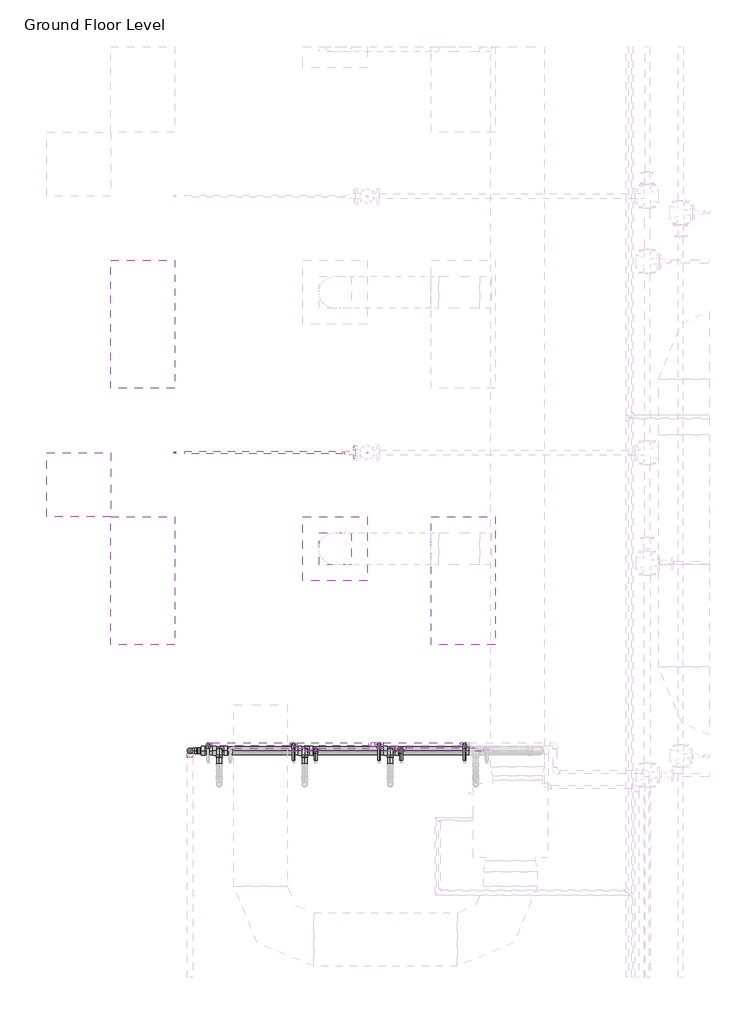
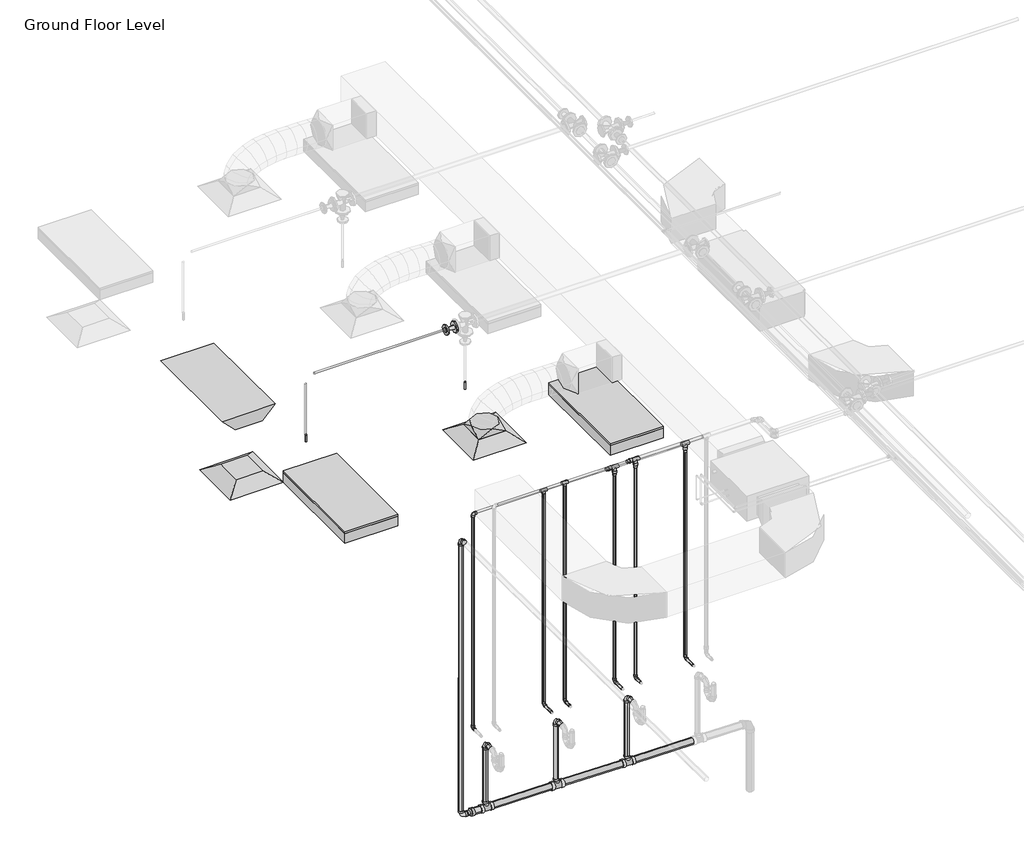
# One storey, part 23 of 66: 31 pipe segments, 27 pipe fittings, 3 light fixtures, 2 air terminals, 2 fire suppression terminals, 1 duct fitting.
"""IFC4 building model written with IfcOpenShell, lengths in millimetres."""

from ifc_helpers import new_model, si_unit, point, frame, frame_2d, origin, place, context, project, spatial, circle_curve, trimmed, segment, composite_curve, outline, extrude, transform, mapped, element, save
from components import m_return_diffuser_600_x_600_face_300_x_300_connection_ff221211, m_rectangular_to_round_transition_angle_45_degree_641efff0, m_sprinkler_dry_pendent_hosted_15_mm_dry_pendent_9bda8e11, m_emergency_recessed_lighting_fixture_600x1200_277_5b10b25d, m_troffer_light_parabolic_rectangular1_0600x1200mm_4_lamp_86473d4a, m_bend_pvc_sch_40_dwv_standard_1e7bdcc1, m_bend_pvc_sch_40_dwv_standard_b3f66ba9, m_bend_pvc_sch_40_dwv_standard_8255d195, m_reducer_flanged_cs_class_150_standard_dc68ad9d, m_reducer_pvc_sch_40_dwv_standard_391ccf0e, m_tee_reducing_sanitary_pvc_sch_40_dwv_standard_21d2848c, standard_b266ab3f, standard_72b35c3b, standard_e954f56a, standard_636910a4, standard_e5aa6446

model = new_model("IFC4")

# Units and contexts
model_context = context("Model", 3, world=origin())
ifc_project = project(units=[si_unit("LENGTHUNIT", "METRE", prefix="MILLI")], contexts=[model_context])

# Site, building, storey
site = spatial("IfcSite", under=ifc_project)
building = spatial("IfcBuilding", under=site)
storey = spatial("IfcBuildingStorey", under=building, Name="Ground Floor Level", Elevation=900.0)

# Air terminals
placement = place(None, origin())
m_return_diffuser_600_x_600_face_300_x_300_connection_shape = m_return_diffuser_600_x_600_face_300_x_300_connection_ff221211(model_context)
element("IfcAirTerminal", 1, ObjectType="M_Return Diffuser : 600 x 600 Face 300 x 300 Connection", at=placement, inside=storey, context=model_context, shape_type="MappedRepresentation", body=[
    mapped(m_return_diffuser_600_x_600_face_300_x_300_connection_shape, transform((362.7672395, -21364.7846466, 3650.0), x_axis=(1.0, 0.0, 0.0), y_axis=(0.0, 1.0, 0.0), z_axis=(0.0, 0.0, 1.0))),
])
element("IfcAirTerminal", 2, ObjectType="M_Supply Diffuser : 600 x 600 Face 300 x 300 Connection", at=placement, inside=storey, context=model_context, shape_type="MappedRepresentation", body=[
    mapped(m_return_diffuser_600_x_600_face_300_x_300_connection_shape, transform((2762.7672395, -21964.7846466, 3650.0), x_axis=(1.0, 0.0, 0.0), y_axis=(0.0, 1.0, 0.0), z_axis=(0.0, 0.0, 1.0))),
])

# Duct fitting
m_rectangular_to_round_transition_angle_45_degree_shape = m_rectangular_to_round_transition_angle_45_degree_641efff0(model_context)
element("IfcDuctFitting", 3, ObjectType="M_Rectangular to Round Transition - Angle : 45 Degree", at=placement, inside=storey, context=model_context, shape_type="MappedRepresentation", body=[
    mapped(m_rectangular_to_round_transition_angle_45_degree_shape, transform((2762.7672395, -21964.7846466, 3751.6), x_axis=(0.0, 0.0, 1.0), y_axis=(-1.0, 0.0, 0.0), z_axis=(0.0, -1.0, 0.0))),
])

# Fire suppression terminals
m_sprinkler_dry_pendent_hosted_15_mm_dry_pendent_shape = m_sprinkler_dry_pendent_hosted_15_mm_dry_pendent_9bda8e11(model_context)
element("IfcFireSuppressionTerminal", 4, ObjectType="M_Sprinkler - Dry - Pendent - Hosted : 15 mm Dry Pendent", at=placement, inside=storey, context=model_context, shape_type="MappedRepresentation", body=[
    mapped(m_sprinkler_dry_pendent_hosted_15_mm_dry_pendent_shape, transform((1262.7672395, -21064.7846466, 3650.0), x_axis=(1.0, 0.0, 0.0), y_axis=(0.0, -1.0, 0.0), z_axis=(0.0, 0.0, -1.0))),
])
element("IfcFireSuppressionTerminal", 5, ObjectType="M_Sprinkler - Dry - Pendent - Hosted : 15 mm Dry Pendent", at=placement, inside=storey, context=model_context, shape_type="MappedRepresentation", body=[
    mapped(m_sprinkler_dry_pendent_hosted_15_mm_dry_pendent_shape, transform((3062.7672395, -21064.7846466, 3650.0), x_axis=(1.0, 0.0, 0.0), y_axis=(0.0, -1.0, 0.0), z_axis=(0.0, 0.0, -1.0))),
])

# Light fixtures
m_emergency_recessed_lighting_fixture_600x1200_277_shape = m_emergency_recessed_lighting_fixture_600x1200_277_5b10b25d(model_context)
element("IfcLightFixture", 6, ObjectType="M_Emergency Recessed Lighting Fixture : 600x1200 - 277", at=placement, inside=storey, context=model_context, shape_type="MappedRepresentation", body=[
    mapped(m_emergency_recessed_lighting_fixture_600x1200_277_shape, transform((662.7672395, -20464.7846466, 3650.0), x_axis=(0.0, 1.0, 0.0), y_axis=(-1.0, 0.0, 0.0), z_axis=(0.0, 0.0, 1.0))),
])
m_troffer_light_parabolic_rectangular1_0600x1200mm_4_lamp_shape = m_troffer_light_parabolic_rectangular1_0600x1200mm_4_lamp_86473d4a(model_context)
element("IfcLightFixture", 7, ObjectType="M_Troffer Light - Parabolic Rectangular1 : 0600x1200mm(4 Lamp) - 277V 2", at=placement, inside=storey, context=model_context, shape_type="MappedRepresentation", body=[
    mapped(m_troffer_light_parabolic_rectangular1_0600x1200mm_4_lamp_shape, transform((903.3013074, -22246.081145, 3650.0), x_axis=(0.0, 1.0, 0.0), y_axis=(-1.0, 0.0, 0.0), z_axis=(0.0, 0.0, 1.0))),
])
element("IfcLightFixture", 8, ObjectType="M_Troffer Light - Parabolic Rectangular1 : 0600x1200mm(4 Lamp) - 277V 2", at=placement, inside=storey, context=model_context, shape_type="MappedRepresentation", body=[
    mapped(m_troffer_light_parabolic_rectangular1_0600x1200mm_4_lamp_shape, transform((3903.3013074, -22246.081145, 3650.0), x_axis=(0.0, 1.0, 0.0), y_axis=(-1.0, 0.0, 0.0), z_axis=(0.0, 0.0, 1.0))),
])

# Pipe fittings
m_bend_pvc_sch_40_dwv_standard_shape = m_bend_pvc_sch_40_dwv_standard_1e7bdcc1(model_context)
element("IfcPipeFitting", 9, ObjectType="M_Bend - PVC - Sch 40 - DWV : Standard", at=placement, inside=storey, context=model_context, shape_type="MappedRepresentation", body=[
    mapped(m_bend_pvc_sch_40_dwv_standard_shape, transform((2478.7498, -23854.2948449, 1508.2594199), x_axis=(0.0, 0.9999500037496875, -0.00999950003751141), y_axis=(0.0, -0.00999950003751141, -0.9999500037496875), z_axis=(-1.0, 0.0, 0.0))),
])
element("IfcPipeFitting", 10, ObjectType="M_Bend - PVC - Sch 40 - DWV : Standard", at=placement, inside=storey, context=model_context, shape_type="MappedRepresentation", body=[
    mapped(m_bend_pvc_sch_40_dwv_standard_shape, transform((1404.8669708, -23854.2948449, 739.8083289), x_axis=(-0.9999500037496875, 0.0, 0.009999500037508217), y_axis=(0.009999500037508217, 0.0, 0.9999500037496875), z_axis=(0.0, 1.0, 0.0))),
])
m_bend_pvc_sch_40_dwv_standard_2_shape = m_bend_pvc_sch_40_dwv_standard_b3f66ba9(model_context)
element("IfcPipeFitting", 11, ObjectType="M_Bend - PVC - Sch 40 - DWV : Standard", at=placement, inside=storey, context=model_context, shape_type="MappedRepresentation", body=[
    mapped(m_bend_pvc_sch_40_dwv_standard_2_shape, transform((1678.7498, -23854.294392, 1508.3087469), x_axis=(0.0, 0.9999578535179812, -0.009181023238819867), y_axis=(0.0, -0.009181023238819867, -0.9999578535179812), z_axis=(-1.0, 0.0, 0.0))),
])
element("IfcPipeFitting", 12, ObjectType="M_Bend - PVC - Sch 40 - DWV : Standard", at=placement, inside=storey, context=model_context, shape_type="MappedRepresentation", body=[
    mapped(m_bend_pvc_sch_40_dwv_standard_2_shape, transform((3278.7498, -23854.294392, 1508.3087469), x_axis=(0.0, 0.9999578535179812, -0.009181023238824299), y_axis=(0.0, -0.009181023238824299, -0.9999578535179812), z_axis=(-1.0, 0.0, 0.0))),
])
m_bend_pvc_sch_40_dwv_standard_3_shape = m_bend_pvc_sch_40_dwv_standard_8255d195(model_context)
element("IfcPipeFitting", 13, ObjectType="M_Bend - PVC - Sch 40 - DWV : Standard", at=placement, inside=storey, context=model_context, shape_type="MappedRepresentation", body=[
    mapped(m_bend_pvc_sch_40_dwv_standard_3_shape, transform((1404.8829692, -23854.3136394, 4037.9287036), x_axis=(0.0, 0.0, 1.0), y_axis=(0.0, -1.0, 0.0), z_axis=(1.0, 0.0, 0.0))),
])
m_reducer_flanged_cs_class_150_standard_shape = m_reducer_flanged_cs_class_150_standard_dc68ad9d(model_context)
element("IfcPipeFitting", 14, ObjectType="M_Reducer - Flanged - CS - Class 150 : Standard", at=placement, inside=storey, context=model_context, shape_type="MappedRepresentation", body=[
    mapped(m_reducer_flanged_cs_class_150_standard_shape, transform((2950.5086457, -21064.7846466, 4347.5), x_axis=(-1.0, 0.0, 0.0), y_axis=(0.0, 0.0, 1.0), z_axis=(0.0, 1.0, 0.0))),
])
m_reducer_pvc_sch_40_dwv_standard_shape = m_reducer_pvc_sch_40_dwv_standard_391ccf0e(model_context)
element("IfcPipeFitting", 15, ObjectType="M_Reducer - PVC - Sch 40 - DWV : Standard", at=placement, inside=storey, context=model_context, shape_type="MappedRepresentation", body=[
    mapped(m_reducer_pvc_sch_40_dwv_standard_shape, transform((1477.4242491, -23854.2948449, 739.0827561), x_axis=(0.9999500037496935, 0.0, -0.00999950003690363), y_axis=(0.0, 1.0, 0.0), z_axis=(0.00999950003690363, 0.0, 0.9999500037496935))),
])
m_tee_reducing_sanitary_pvc_sch_40_dwv_standard_shape = m_tee_reducing_sanitary_pvc_sch_40_dwv_standard_21d2848c(model_context)
element("IfcPipeFitting", 16, ObjectType="M_Tee Reducing Sanitary - PVC - Sch 40 - DWV : Standard", at=placement, inside=storey, context=model_context, shape_type="MappedRepresentation", body=[
    mapped(m_tee_reducing_sanitary_pvc_sch_40_dwv_standard_shape, transform((1678.7498, -23854.294392, 737.0632162), x_axis=(-0.9999500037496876, 0.0, 0.009999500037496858), y_axis=(-0.009999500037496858, 0.0, -0.9999500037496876), z_axis=(0.0, -1.0, 0.0))),
])
element("IfcPipeFitting", 17, ObjectType="M_Tee Reducing Sanitary - PVC - Sch 40 - DWV : Standard", at=placement, inside=storey, context=model_context, shape_type="MappedRepresentation", body=[
    mapped(m_tee_reducing_sanitary_pvc_sch_40_dwv_standard_shape, transform((2478.7498, -23854.2948449, 729.0632162), x_axis=(-0.9999500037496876, 0.0, 0.009999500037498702), y_axis=(-0.009999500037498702, 0.0, -0.9999500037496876), z_axis=(0.0, -1.0, 0.0))),
])
element("IfcPipeFitting", 18, ObjectType="M_Tee Reducing Sanitary - PVC - Sch 40 - DWV : Standard", at=placement, inside=storey, context=model_context, shape_type="MappedRepresentation", body=[
    mapped(m_tee_reducing_sanitary_pvc_sch_40_dwv_standard_shape, transform((3278.7498, -23854.294392, 721.0632162), x_axis=(-0.9999500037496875, 0.0, 0.009999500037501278), y_axis=(-0.009999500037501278, 0.0, -0.9999500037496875), z_axis=(0.0, -1.0, 0.0))),
])
standard_shape = standard_b266ab3f(model_context)
element("IfcPipeFitting", 19, ObjectType="M_Elbow - CPVC - Sch 40 : Standard", at=placement, inside=storey, context=model_context, shape_type="MappedRepresentation", body=[
    mapped(standard_shape, transform((2583.0647206, -23844.7846466, 1690.0), x_axis=(0.0, 0.0, -1.0), y_axis=(0.0, -1.0, 0.0), z_axis=(-1.0, 0.0, 0.0))),
])
element("IfcPipeFitting", 20, ObjectType="M_Elbow - CPVC - Sch 40 : Standard", at=placement, inside=storey, context=model_context, shape_type="MappedRepresentation", body=[
    mapped(standard_shape, transform((3383.0647206, -23844.7846466, 1690.0), x_axis=(0.0, 0.0, -1.0), y_axis=(0.0, -1.0, 0.0), z_axis=(-1.0, 0.0, 0.0))),
])
element("IfcPipeFitting", 21, ObjectType="M_Elbow - CPVC - Sch 40 : Standard", at=placement, inside=storey, context=model_context, shape_type="MappedRepresentation", body=[
    mapped(standard_shape, transform((1574.4348794, -23794.921633, 1690.0), x_axis=(0.0, 1.0, 0.0), y_axis=(0.0, 0.0, 1.0), z_axis=(1.0, 0.0, 0.0))),
])
element("IfcPipeFitting", 22, ObjectType="M_Elbow - CPVC - Sch 40 : Standard", at=placement, inside=storey, context=model_context, shape_type="MappedRepresentation", body=[
    mapped(standard_shape, transform((1574.4348794, -23794.921633, 4250.0), x_axis=(0.0, 0.0, 1.0), y_axis=(1.0, 0.0, 0.0), z_axis=(0.0, 1.0, 0.0))),
])
element("IfcPipeFitting", 23, ObjectType="M_Elbow - CPVC - Sch 40 : Standard", at=placement, inside=storey, context=model_context, shape_type="MappedRepresentation", body=[
    mapped(standard_shape, transform((2374.4348794, -23794.921633, 1690.0), x_axis=(0.0, 1.0, 0.0), y_axis=(0.0, 0.0, 1.0), z_axis=(1.0, 0.0, 0.0))),
])
element("IfcPipeFitting", 24, ObjectType="M_Elbow - CPVC - Sch 40 : Standard", at=placement, inside=storey, context=model_context, shape_type="MappedRepresentation", body=[
    mapped(standard_shape, transform((3174.4348794, -23794.921633, 1690.0), x_axis=(0.0, 1.0, 0.0), y_axis=(0.0, 0.0, 1.0), z_axis=(1.0, 0.0, 0.0))),
])
element("IfcPipeFitting", 25, ObjectType="M_Elbow - CPVC - Sch 40 : Standard", at=placement, inside=storey, context=model_context, shape_type="MappedRepresentation", body=[
    mapped(standard_shape, transform((3974.4348794, -23794.921633, 1690.0), x_axis=(0.0, 1.0, 0.0), y_axis=(0.0, 0.0, 1.0), z_axis=(1.0, 0.0, 0.0))),
])
standard_2_shape = standard_72b35c3b(model_context)
element("IfcPipeFitting", 26, ObjectType="M_Tee - CPVC - Sch 40 : Standard", at=placement, inside=storey, context=model_context, shape_type="MappedRepresentation", body=[
    mapped(standard_2_shape, transform((3383.0647206, -23844.7846466, 4300.0), x_axis=(1.0, 0.0, 0.0), y_axis=(0.0, 0.0, 1.0), z_axis=(0.0, -1.0, 0.0))),
])
element("IfcPipeFitting", 27, ObjectType="M_Tee - CPVC - Sch 40 : Standard", at=placement, inside=storey, context=model_context, shape_type="MappedRepresentation", body=[
    mapped(standard_2_shape, transform((3174.4348794, -23794.921633, 4250.0), x_axis=(-1.0, 0.0, 0.0), y_axis=(0.0, 0.0, 1.0), z_axis=(0.0, 1.0, 0.0))),
])
element("IfcPipeFitting", 28, ObjectType="M_Tee - CPVC - Sch 40 : Standard", at=placement, inside=storey, context=model_context, shape_type="MappedRepresentation", body=[
    mapped(standard_2_shape, transform((3974.4348794, -23794.921633, 4250.0), x_axis=(-1.0, 0.0, 0.0), y_axis=(0.0, 0.0, 1.0), z_axis=(0.0, 1.0, 0.0))),
])
standard_3_shape = standard_e954f56a(model_context)
element("IfcPipeFitting", 29, ObjectType="M_Coupling Reducing - CPVC - Sch 40 : Standard", at=placement, inside=storey, context=model_context, shape_type="MappedRepresentation", body=[
    mapped(standard_3_shape, transform((3343.3645206, -23844.7846466, 4300.0), x_axis=(-1.0, 0.0, 0.0), y_axis=(0.0, -1.0, 0.0), z_axis=(0.0, 0.0, 1.0))),
])
element("IfcPipeFitting", 30, ObjectType="M_Coupling Reducing - CPVC - Sch 40 : Standard", at=placement, inside=storey, context=model_context, shape_type="MappedRepresentation", body=[
    mapped(standard_3_shape, transform((3383.0647206, -23844.7846466, 4260.2998), x_axis=(0.0, 0.0, -1.0), y_axis=(1.0, 0.0, 0.0), z_axis=(0.0, -1.0, 0.0))),
])
element("IfcPipeFitting", 31, ObjectType="M_Coupling Reducing - CPVC - Sch 40 : Standard", at=placement, inside=storey, context=model_context, shape_type="MappedRepresentation", body=[
    mapped(standard_3_shape, transform((3174.4348794, -23794.921633, 4210.2998), x_axis=(0.0, 0.0, -1.0), y_axis=(-1.0, 0.0, 0.0), z_axis=(0.0, 1.0, 0.0))),
])
element("IfcPipeFitting", 32, ObjectType="M_Coupling Reducing - CPVC - Sch 40 : Standard", at=placement, inside=storey, context=model_context, shape_type="MappedRepresentation", body=[
    mapped(standard_3_shape, transform((3974.4348794, -23794.921633, 4210.2998), x_axis=(0.0, 0.0, -1.0), y_axis=(-1.0, 0.0, 0.0), z_axis=(0.0, 1.0, 0.0))),
])
standard_4_shape = standard_636910a4(model_context)
element("IfcPipeFitting", 33, ObjectType="M_Tee - CPVC - Sch 40 : Standard", at=placement, inside=storey, context=model_context, shape_type="MappedRepresentation", body=[
    mapped(standard_4_shape, transform((2583.0647206, -23844.7846466, 4300.0), x_axis=(1.0, 0.0, 0.0), y_axis=(0.0, 0.0, 1.0), z_axis=(0.0, -1.0, 0.0))),
])
element("IfcPipeFitting", 34, ObjectType="M_Tee - CPVC - Sch 40 : Standard", at=placement, inside=storey, context=model_context, shape_type="MappedRepresentation", body=[
    mapped(standard_4_shape, transform((2374.4348794, -23794.921633, 4250.0), x_axis=(-1.0, 0.0, 0.0), y_axis=(0.0, 0.0, 1.0), z_axis=(0.0, 1.0, 0.0))),
])
standard_5_shape = standard_e5aa6446(model_context)
element("IfcPipeFitting", 35, ObjectType="M_Coupling Reducing - CPVC - Sch 40 : Standard", at=placement, inside=storey, context=model_context, shape_type="MappedRepresentation", body=[
    mapped(standard_5_shape, transform((3134.7346794, -23794.921633, 4250.0), x_axis=(-1.0, 0.0, 0.0), y_axis=(0.0, -1.0, 0.0), z_axis=(0.0, 0.0, 1.0))),
])

# Pipe segments
element("IfcPipeSegment", 36, ObjectType="CPVC", at=placement, inside=storey, context=model_context, shape_type="SweptSolid", body=[
    extrude(outline(composite_curve([segment(trimmed(circle_curve(frame_2d((1690.0, 3383.0647206)), 13.335), [point((1690.0, 3396.3997206))], [point((1703.335, 3383.0647206))], False, "CARTESIAN"), True, "CONTINUOUS"), segment(trimmed(circle_curve(frame_2d((1690.0, 3383.0647206)), 13.335), [point((1703.335, 3383.0647206))], [point((1690.0, 3369.7297206))], False, "CARTESIAN"), True, "CONTINUOUS"), segment(trimmed(circle_curve(frame_2d((1690.0, 3383.0647206)), 13.335), [point((1690.0, 3369.7297206))], [point((1676.665, 3383.0647206))], False, "CARTESIAN"), True, "CONTINUOUS"), segment(trimmed(circle_curve(frame_2d((1690.0, 3383.0647206)), 13.335), [point((1676.665, 3383.0647206))], [point((1690.0, 3396.3997206))], False, "CARTESIAN"), True, "CONTINUOUS")], self_intersect=False)), frame((0.0, -23944.7846466, 0.0), z_axis=(0.0, 1.0, 0.0), x_axis=(0.0, 0.0, 1.0)), (0.0, 0.0, 1.0), 64.67495),
])
element("IfcPipeSegment", 37, ObjectType="CPVC", at=placement, inside=storey, context=model_context, shape_type="SweptSolid", body=[
    extrude(outline(composite_curve([segment(trimmed(circle_curve(frame_2d((1690.0, 2583.0647206)), 13.335), [point((1690.0, 2596.3997206))], [point((1703.335, 2583.0647206))], False, "CARTESIAN"), True, "CONTINUOUS"), segment(trimmed(circle_curve(frame_2d((1690.0, 2583.0647206)), 13.335), [point((1703.335, 2583.0647206))], [point((1690.0, 2569.7297206))], False, "CARTESIAN"), True, "CONTINUOUS"), segment(trimmed(circle_curve(frame_2d((1690.0, 2583.0647206)), 13.335), [point((1690.0, 2569.7297206))], [point((1676.665, 2583.0647206))], False, "CARTESIAN"), True, "CONTINUOUS"), segment(trimmed(circle_curve(frame_2d((1690.0, 2583.0647206)), 13.335), [point((1676.665, 2583.0647206))], [point((1690.0, 2596.3997206))], False, "CARTESIAN"), True, "CONTINUOUS")], self_intersect=False)), frame((0.0, -23944.7846466, 0.0), z_axis=(0.0, 1.0, 0.0), x_axis=(0.0, 0.0, 1.0)), (0.0, 0.0, 1.0), 64.67495),
])
element("IfcPipeSegment", 38, ObjectType="CPVC", at=placement, inside=storey, context=model_context, shape_type="SweptSolid", body=[
    extrude(outline(composite_curve([segment(trimmed(circle_curve(frame_2d((-23844.7846466, 4300.0)), 13.335), [point((-23831.4496466, 4300.0))], [point((-23844.7846466, 4286.665))], False, "CARTESIAN"), True, "CONTINUOUS"), segment(trimmed(circle_curve(frame_2d((-23844.7846466, 4300.0)), 13.335), [point((-23844.7846466, 4286.665))], [point((-23858.1196466, 4300.0))], False, "CARTESIAN"), True, "CONTINUOUS"), segment(trimmed(circle_curve(frame_2d((-23844.7846466, 4300.0)), 13.335), [point((-23858.1196466, 4300.0))], [point((-23844.7846466, 4313.335))], False, "CARTESIAN"), True, "CONTINUOUS"), segment(trimmed(circle_curve(frame_2d((-23844.7846466, 4300.0)), 13.335), [point((-23844.7846466, 4313.335))], [point((-23831.4496466, 4300.0))], False, "CARTESIAN"), True, "CONTINUOUS")], self_intersect=False)), frame((1818.3897706, 0.0, 0.0), z_axis=(1.0, 0.0, 0.0), x_axis=(0.0, 1.0, 0.0)), (0.0, 0.0, 1.0), 732.13755),
])
element("IfcPipeSegment", 39, ObjectType="CPVC", at=placement, inside=storey, context=model_context, shape_type="SweptSolid", body=[
    extrude(outline(composite_curve([segment(trimmed(circle_curve(frame_2d((2583.0647206, -23844.7846466)), 13.335), [point((2596.3997206, -23844.7846466))], [point((2583.0647206, -23858.1196466))], False, "CARTESIAN"), True, "CONTINUOUS"), segment(trimmed(circle_curve(frame_2d((2583.0647206, -23844.7846466)), 13.335), [point((2583.0647206, -23858.1196466))], [point((2569.7297206, -23844.7846466))], False, "CARTESIAN"), True, "CONTINUOUS"), segment(trimmed(circle_curve(frame_2d((2583.0647206, -23844.7846466)), 13.335), [point((2569.7297206, -23844.7846466))], [point((2583.0647206, -23831.4496466))], False, "CARTESIAN"), True, "CONTINUOUS"), segment(trimmed(circle_curve(frame_2d((2583.0647206, -23844.7846466)), 13.335), [point((2583.0647206, -23831.4496466))], [point((2596.3997206, -23844.7846466))], False, "CARTESIAN"), True, "CONTINUOUS")], self_intersect=False)), frame((0.0, 0.0, 1725.32505), z_axis=(0.0, 0.0, 1.0), x_axis=(1.0, 0.0, 0.0)), (0.0, 0.0, 1.0), 2542.13755),
])
element("IfcPipeSegment", 40, ObjectType="CPVC", at=placement, inside=storey, context=model_context, shape_type="SweptSolid", body=[
    extrude(outline(composite_curve([segment(trimmed(circle_curve(frame_2d((-23844.7846466, 4300.0)), 13.335), [point((-23831.4496466, 4300.0))], [point((-23844.7846466, 4286.665))], False, "CARTESIAN"), True, "CONTINUOUS"), segment(trimmed(circle_curve(frame_2d((-23844.7846466, 4300.0)), 13.335), [point((-23844.7846466, 4286.665))], [point((-23858.1196466, 4300.0))], False, "CARTESIAN"), True, "CONTINUOUS"), segment(trimmed(circle_curve(frame_2d((-23844.7846466, 4300.0)), 13.335), [point((-23858.1196466, 4300.0))], [point((-23844.7846466, 4313.335))], False, "CARTESIAN"), True, "CONTINUOUS"), segment(trimmed(circle_curve(frame_2d((-23844.7846466, 4300.0)), 13.335), [point((-23844.7846466, 4313.335))], [point((-23831.4496466, 4300.0))], False, "CARTESIAN"), True, "CONTINUOUS")], self_intersect=False)), frame((2615.6021206, 0.0, 0.0), z_axis=(1.0, 0.0, 0.0), x_axis=(0.0, 1.0, 0.0)), (0.0, 0.0, 1.0), 670.6124),
])
element("IfcPipeSegment", 41, ObjectType="CPVC", at=placement, inside=storey, context=model_context, shape_type="SweptSolid", body=[
    extrude(outline(composite_curve([segment(trimmed(circle_curve(frame_2d((3383.0647206, -23844.7846466)), 13.335), [point((3396.3997206, -23844.7846466))], [point((3383.0647206, -23858.1196466))], False, "CARTESIAN"), True, "CONTINUOUS"), segment(trimmed(circle_curve(frame_2d((3383.0647206, -23844.7846466)), 13.335), [point((3383.0647206, -23858.1196466))], [point((3369.7297206, -23844.7846466))], False, "CARTESIAN"), True, "CONTINUOUS"), segment(trimmed(circle_curve(frame_2d((3383.0647206, -23844.7846466)), 13.335), [point((3369.7297206, -23844.7846466))], [point((3383.0647206, -23831.4496466))], False, "CARTESIAN"), True, "CONTINUOUS"), segment(trimmed(circle_curve(frame_2d((3383.0647206, -23844.7846466)), 13.335), [point((3383.0647206, -23831.4496466))], [point((3396.3997206, -23844.7846466))], False, "CARTESIAN"), True, "CONTINUOUS")], self_intersect=False)), frame((0.0, 0.0, 1725.32505), z_axis=(0.0, 0.0, 1.0), x_axis=(1.0, 0.0, 0.0)), (0.0, 0.0, 1.0), 2477.82475),
])
element("IfcPipeSegment", 42, ObjectType="CPVC", at=placement, inside=storey, context=model_context, shape_type="SweptSolid", body=[
    extrude(outline(composite_curve([segment(trimmed(circle_curve(frame_2d((-23844.7846466, 4300.0)), 16.7005), [point((-23828.0841466, 4300.0))], [point((-23844.7846466, 4283.2995))], False, "CARTESIAN"), True, "CONTINUOUS"), segment(trimmed(circle_curve(frame_2d((-23844.7846466, 4300.0)), 16.7005), [point((-23844.7846466, 4283.2995))], [point((-23861.4851466, 4300.0))], False, "CARTESIAN"), True, "CONTINUOUS"), segment(trimmed(circle_curve(frame_2d((-23844.7846466, 4300.0)), 16.7005), [point((-23861.4851466, 4300.0))], [point((-23844.7846466, 4316.7005))], False, "CARTESIAN"), True, "CONTINUOUS"), segment(trimmed(circle_curve(frame_2d((-23844.7846466, 4300.0)), 16.7005), [point((-23844.7846466, 4316.7005))], [point((-23828.0841466, 4300.0))], False, "CARTESIAN"), True, "CONTINUOUS")], self_intersect=False)), frame((3422.7649206, 0.0, 0.0), z_axis=(1.0, 0.0, 0.0), x_axis=(0.0, 1.0, 0.0)), (0.0, 0.0, 1.0), 720.5996),
])
element("IfcPipeSegment", 43, ObjectType="CPVC", at=placement, inside=storey, context=model_context, shape_type="SweptSolid", body=[
    extrude(outline(composite_curve([segment(trimmed(circle_curve(frame_2d((1574.4348794, -23794.921633)), 13.335), [point((1561.0998794, -23794.921633))], [point((1574.4348794, -23781.586633))], False, "CARTESIAN"), True, "CONTINUOUS"), segment(trimmed(circle_curve(frame_2d((1574.4348794, -23794.921633)), 13.335), [point((1574.4348794, -23781.586633))], [point((1587.7698794, -23794.921633))], False, "CARTESIAN"), True, "CONTINUOUS"), segment(trimmed(circle_curve(frame_2d((1574.4348794, -23794.921633)), 13.335), [point((1587.7698794, -23794.921633))], [point((1574.4348794, -23808.256633))], False, "CARTESIAN"), True, "CONTINUOUS"), segment(trimmed(circle_curve(frame_2d((1574.4348794, -23794.921633)), 13.335), [point((1574.4348794, -23808.256633))], [point((1561.0998794, -23794.921633))], False, "CARTESIAN"), True, "CONTINUOUS")], self_intersect=False)), frame((0.0, 0.0, 1725.32505), z_axis=(0.0, 0.0, 1.0), x_axis=(1.0, 0.0, 0.0)), (0.0, 0.0, 1.0), 2489.3499),
])
element("IfcPipeSegment", 44, ObjectType="CPVC", at=placement, inside=storey, context=model_context, shape_type="SweptSolid", body=[
    extrude(outline(composite_curve([segment(trimmed(circle_curve(frame_2d((1690.0, 2374.4348794)), 13.335), [point((1690.0, 2387.7698794))], [point((1703.335, 2374.4348794))], False, "CARTESIAN"), True, "CONTINUOUS"), segment(trimmed(circle_curve(frame_2d((1690.0, 2374.4348794)), 13.335), [point((1703.335, 2374.4348794))], [point((1690.0, 2361.0998794))], False, "CARTESIAN"), True, "CONTINUOUS"), segment(trimmed(circle_curve(frame_2d((1690.0, 2374.4348794)), 13.335), [point((1690.0, 2361.0998794))], [point((1676.665, 2374.4348794))], False, "CARTESIAN"), True, "CONTINUOUS"), segment(trimmed(circle_curve(frame_2d((1690.0, 2374.4348794)), 13.335), [point((1676.665, 2374.4348794))], [point((1690.0, 2387.7698794))], False, "CARTESIAN"), True, "CONTINUOUS")], self_intersect=False)), frame((0.0, -23944.7846466, 0.0), z_axis=(0.0, 1.0, 0.0), x_axis=(0.0, 0.0, 1.0)), (0.0, 0.0, 1.0), 114.5379636),
])
element("IfcPipeSegment", 45, ObjectType="CPVC", at=placement, inside=storey, context=model_context, shape_type="SweptSolid", body=[
    extrude(outline(composite_curve([segment(trimmed(circle_curve(frame_2d((2374.4348794, -23794.921633)), 13.335), [point((2361.0998794, -23794.921633))], [point((2374.4348794, -23781.586633))], False, "CARTESIAN"), True, "CONTINUOUS"), segment(trimmed(circle_curve(frame_2d((2374.4348794, -23794.921633)), 13.335), [point((2374.4348794, -23781.586633))], [point((2387.7698794, -23794.921633))], False, "CARTESIAN"), True, "CONTINUOUS"), segment(trimmed(circle_curve(frame_2d((2374.4348794, -23794.921633)), 13.335), [point((2387.7698794, -23794.921633))], [point((2374.4348794, -23808.256633))], False, "CARTESIAN"), True, "CONTINUOUS"), segment(trimmed(circle_curve(frame_2d((2374.4348794, -23794.921633)), 13.335), [point((2374.4348794, -23808.256633))], [point((2361.0998794, -23794.921633))], False, "CARTESIAN"), True, "CONTINUOUS")], self_intersect=False)), frame((0.0, 0.0, 1725.32505), z_axis=(0.0, 0.0, 1.0), x_axis=(1.0, 0.0, 0.0)), (0.0, 0.0, 1.0), 2492.13755),
])
element("IfcPipeSegment", 46, ObjectType="CPVC", at=placement, inside=storey, context=model_context, shape_type="SweptSolid", body=[
    extrude(outline(composite_curve([segment(trimmed(circle_curve(frame_2d((-23794.921633, 4250.0)), 13.335), [point((-23808.256633, 4250.0))], [point((-23794.921633, 4263.335))], False, "CARTESIAN"), True, "CONTINUOUS"), segment(trimmed(circle_curve(frame_2d((-23794.921633, 4250.0)), 13.335), [point((-23794.921633, 4263.335))], [point((-23781.586633, 4250.0))], False, "CARTESIAN"), True, "CONTINUOUS"), segment(trimmed(circle_curve(frame_2d((-23794.921633, 4250.0)), 13.335), [point((-23781.586633, 4250.0))], [point((-23794.921633, 4236.665))], False, "CARTESIAN"), True, "CONTINUOUS"), segment(trimmed(circle_curve(frame_2d((-23794.921633, 4250.0)), 13.335), [point((-23794.921633, 4236.665))], [point((-23808.256633, 4250.0))], False, "CARTESIAN"), True, "CONTINUOUS")], self_intersect=False)), frame((1609.7599294, 0.0, 0.0), z_axis=(1.0, 0.0, 0.0), x_axis=(0.0, 1.0, 0.0)), (0.0, 0.0, 1.0), 732.13755),
])
element("IfcPipeSegment", 47, ObjectType="CPVC", at=placement, inside=storey, context=model_context, shape_type="SweptSolid", body=[
    extrude(outline(composite_curve([segment(trimmed(circle_curve(frame_2d((1690.0, 3174.4348794)), 13.335), [point((1690.0, 3187.7698794))], [point((1703.335, 3174.4348794))], False, "CARTESIAN"), True, "CONTINUOUS"), segment(trimmed(circle_curve(frame_2d((1690.0, 3174.4348794)), 13.335), [point((1703.335, 3174.4348794))], [point((1690.0, 3161.0998794))], False, "CARTESIAN"), True, "CONTINUOUS"), segment(trimmed(circle_curve(frame_2d((1690.0, 3174.4348794)), 13.335), [point((1690.0, 3161.0998794))], [point((1676.665, 3174.4348794))], False, "CARTESIAN"), True, "CONTINUOUS"), segment(trimmed(circle_curve(frame_2d((1690.0, 3174.4348794)), 13.335), [point((1676.665, 3174.4348794))], [point((1690.0, 3187.7698794))], False, "CARTESIAN"), True, "CONTINUOUS")], self_intersect=False)), frame((0.0, -23944.7846466, 0.0), z_axis=(0.0, 1.0, 0.0), x_axis=(0.0, 0.0, 1.0)), (0.0, 0.0, 1.0), 114.5379636),
])
element("IfcPipeSegment", 48, ObjectType="CPVC", at=placement, inside=storey, context=model_context, shape_type="SweptSolid", body=[
    extrude(outline(composite_curve([segment(trimmed(circle_curve(frame_2d((3174.4348794, -23794.921633)), 13.335), [point((3161.0998794, -23794.921633))], [point((3174.4348794, -23781.586633))], False, "CARTESIAN"), True, "CONTINUOUS"), segment(trimmed(circle_curve(frame_2d((3174.4348794, -23794.921633)), 13.335), [point((3174.4348794, -23781.586633))], [point((3187.7698794, -23794.921633))], False, "CARTESIAN"), True, "CONTINUOUS"), segment(trimmed(circle_curve(frame_2d((3174.4348794, -23794.921633)), 13.335), [point((3187.7698794, -23794.921633))], [point((3174.4348794, -23808.256633))], False, "CARTESIAN"), True, "CONTINUOUS"), segment(trimmed(circle_curve(frame_2d((3174.4348794, -23794.921633)), 13.335), [point((3174.4348794, -23808.256633))], [point((3161.0998794, -23794.921633))], False, "CARTESIAN"), True, "CONTINUOUS")], self_intersect=False)), frame((0.0, 0.0, 1725.32505), z_axis=(0.0, 0.0, 1.0), x_axis=(1.0, 0.0, 0.0)), (0.0, 0.0, 1.0), 2427.82475),
])
element("IfcPipeSegment", 49, ObjectType="CPVC", at=placement, inside=storey, context=model_context, shape_type="SweptSolid", body=[
    extrude(outline(composite_curve([segment(trimmed(circle_curve(frame_2d((-23794.921633, 4250.0)), 13.335), [point((-23808.256633, 4250.0))], [point((-23794.921633, 4263.335))], False, "CARTESIAN"), True, "CONTINUOUS"), segment(trimmed(circle_curve(frame_2d((-23794.921633, 4250.0)), 13.335), [point((-23794.921633, 4263.335))], [point((-23781.586633, 4250.0))], False, "CARTESIAN"), True, "CONTINUOUS"), segment(trimmed(circle_curve(frame_2d((-23794.921633, 4250.0)), 13.335), [point((-23781.586633, 4250.0))], [point((-23794.921633, 4236.665))], False, "CARTESIAN"), True, "CONTINUOUS"), segment(trimmed(circle_curve(frame_2d((-23794.921633, 4250.0)), 13.335), [point((-23794.921633, 4236.665))], [point((-23808.256633, 4250.0))], False, "CARTESIAN"), True, "CONTINUOUS")], self_intersect=False)), frame((2406.9722794, 0.0, 0.0), z_axis=(1.0, 0.0, 0.0), x_axis=(0.0, 1.0, 0.0)), (0.0, 0.0, 1.0), 670.6124),
])
element("IfcPipeSegment", 50, ObjectType="CPVC", at=placement, inside=storey, context=model_context, shape_type="SweptSolid", body=[
    extrude(outline(composite_curve([segment(trimmed(circle_curve(frame_2d((1690.0, 3974.4348794)), 13.335), [point((1690.0, 3987.7698794))], [point((1703.335, 3974.4348794))], False, "CARTESIAN"), True, "CONTINUOUS"), segment(trimmed(circle_curve(frame_2d((1690.0, 3974.4348794)), 13.335), [point((1703.335, 3974.4348794))], [point((1690.0, 3961.0998794))], False, "CARTESIAN"), True, "CONTINUOUS"), segment(trimmed(circle_curve(frame_2d((1690.0, 3974.4348794)), 13.335), [point((1690.0, 3961.0998794))], [point((1676.665, 3974.4348794))], False, "CARTESIAN"), True, "CONTINUOUS"), segment(trimmed(circle_curve(frame_2d((1690.0, 3974.4348794)), 13.335), [point((1676.665, 3974.4348794))], [point((1690.0, 3987.7698794))], False, "CARTESIAN"), True, "CONTINUOUS")], self_intersect=False)), frame((0.0, -23944.7846466, 0.0), z_axis=(0.0, 1.0, 0.0), x_axis=(0.0, 0.0, 1.0)), (0.0, 0.0, 1.0), 114.5379636),
])
element("IfcPipeSegment", 51, ObjectType="CPVC", at=placement, inside=storey, context=model_context, shape_type="SweptSolid", body=[
    extrude(outline(composite_curve([segment(trimmed(circle_curve(frame_2d((3974.4348794, -23794.921633)), 13.335), [point((3961.0998794, -23794.921633))], [point((3974.4348794, -23781.586633))], False, "CARTESIAN"), True, "CONTINUOUS"), segment(trimmed(circle_curve(frame_2d((3974.4348794, -23794.921633)), 13.335), [point((3974.4348794, -23781.586633))], [point((3987.7698794, -23794.921633))], False, "CARTESIAN"), True, "CONTINUOUS"), segment(trimmed(circle_curve(frame_2d((3974.4348794, -23794.921633)), 13.335), [point((3987.7698794, -23794.921633))], [point((3974.4348794, -23808.256633))], False, "CARTESIAN"), True, "CONTINUOUS"), segment(trimmed(circle_curve(frame_2d((3974.4348794, -23794.921633)), 13.335), [point((3974.4348794, -23808.256633))], [point((3961.0998794, -23794.921633))], False, "CARTESIAN"), True, "CONTINUOUS")], self_intersect=False)), frame((0.0, 0.0, 1725.32505), z_axis=(0.0, 0.0, 1.0), x_axis=(1.0, 0.0, 0.0)), (0.0, 0.0, 1.0), 2427.82475),
])
element("IfcPipeSegment", 52, ObjectType="CPVC", at=placement, inside=storey, context=model_context, shape_type="SweptSolid", body=[
    extrude(outline(composite_curve([segment(trimmed(circle_curve(frame_2d((-23794.921633, 4250.0)), 16.7005), [point((-23811.622133, 4250.0))], [point((-23794.921633, 4266.7005))], False, "CARTESIAN"), True, "CONTINUOUS"), segment(trimmed(circle_curve(frame_2d((-23794.921633, 4250.0)), 16.7005), [point((-23794.921633, 4266.7005))], [point((-23778.221133, 4250.0))], False, "CARTESIAN"), True, "CONTINUOUS"), segment(trimmed(circle_curve(frame_2d((-23794.921633, 4250.0)), 16.7005), [point((-23778.221133, 4250.0))], [point((-23794.921633, 4233.2995))], False, "CARTESIAN"), True, "CONTINUOUS"), segment(trimmed(circle_curve(frame_2d((-23794.921633, 4250.0)), 16.7005), [point((-23794.921633, 4233.2995))], [point((-23811.622133, 4250.0))], False, "CARTESIAN"), True, "CONTINUOUS")], self_intersect=False)), frame((3214.1350794, 0.0, 0.0), z_axis=(1.0, 0.0, 0.0), x_axis=(0.0, 1.0, 0.0)), (0.0, 0.0, 1.0), 720.5996),
])
element("IfcPipeSegment", 53, ObjectType="PVC - DWV", at=placement, inside=storey, context=model_context, shape_type="SweptSolid", body=[
    extrude(outline(composite_curve([segment(trimmed(circle_curve(frame_2d((0.0, -24.13)), 24.13), [point((24.13, -24.13))], [point((0.0, -48.26))], False, "CARTESIAN"), True, "CONTINUOUS"), segment(trimmed(circle_curve(frame_2d((0.0, -24.13)), 24.13), [point((0.0, -48.26))], [point((-24.13, -24.13))], False, "CARTESIAN"), True, "CONTINUOUS"), segment(trimmed(circle_curve(frame_2d((0.0, -24.13)), 24.13), [point((-24.13, -24.13))], [point((0.0, 0.0))], False, "CARTESIAN"), True, "CONTINUOUS"), segment(trimmed(circle_curve(frame_2d((0.0, -24.13)), 24.13), [point((0.0, 0.0))], [point((24.13, -24.13))], False, "CARTESIAN"), True, "CONTINUOUS")], self_intersect=False)), frame((1678.7498, -23915.9700451, 1533.0060334), z_axis=(0.0, -0.9999578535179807, 0.009181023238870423), x_axis=(1.0, 0.0, 0.0)), (0.0, 0.0, 1.0), 60.2666161),
])
element("IfcPipeSegment", 54, ObjectType="PVC - DWV", at=placement, inside=storey, context=model_context, shape_type="SweptSolid", body=[
    extrude(outline(composite_curve([segment(trimmed(circle_curve(frame_2d((1678.7498, -23854.294392)), 24.13), [point((1654.6198, -23854.294392))], [point((1678.7498, -23830.164392))], False, "CARTESIAN"), True, "CONTINUOUS"), segment(trimmed(circle_curve(frame_2d((1678.7498, -23854.294392)), 24.13), [point((1678.7498, -23830.164392))], [point((1702.8798, -23854.294392))], False, "CARTESIAN"), True, "CONTINUOUS"), segment(trimmed(circle_curve(frame_2d((1678.7498, -23854.294392)), 24.13), [point((1702.8798, -23854.294392))], [point((1678.7498, -23878.424392))], False, "CARTESIAN"), True, "CONTINUOUS"), segment(trimmed(circle_curve(frame_2d((1678.7498, -23854.294392)), 24.13), [point((1678.7498, -23878.424392))], [point((1654.6198, -23854.294392))], False, "CARTESIAN"), True, "CONTINUOUS")], self_intersect=False)), frame((0.0, 0.0, 817.9106725), z_axis=(0.0, 0.0, 1.0), x_axis=(1.0, 0.0, 0.0)), (0.0, 0.0, 1.0), 628.4982744),
])
element("IfcPipeSegment", 55, ObjectType="PVC - DWV", at=placement, inside=storey, context=model_context, shape_type="SweptSolid", body=[
    extrude(outline(composite_curve([segment(trimmed(circle_curve(frame_2d((0.0, -24.13)), 24.13), [point((24.13, -24.13))], [point((0.0, -48.26))], False, "CARTESIAN"), True, "CONTINUOUS"), segment(trimmed(circle_curve(frame_2d((0.0, -24.13)), 24.13), [point((0.0, -48.26))], [point((-24.13, -24.13))], False, "CARTESIAN"), True, "CONTINUOUS"), segment(trimmed(circle_curve(frame_2d((0.0, -24.13)), 24.13), [point((-24.13, -24.13))], [point((0.0, 0.0))], False, "CARTESIAN"), True, "CONTINUOUS"), segment(trimmed(circle_curve(frame_2d((0.0, -24.13)), 24.13), [point((0.0, 0.0))], [point((24.13, -24.13))], False, "CARTESIAN"), True, "CONTINUOUS")], self_intersect=False)), frame((2478.7498, -23915.9502622, 1533.0071805), z_axis=(0.0, -0.9999500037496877, 0.009999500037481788), x_axis=(1.0, 0.0, 0.0)), (0.0, 0.0, 1.0), 60.2666156),
])
element("IfcPipeSegment", 56, ObjectType="PVC - DWV", at=placement, inside=storey, context=model_context, shape_type="SweptSolid", body=[
    extrude(outline(composite_curve([segment(trimmed(circle_curve(frame_2d((2478.7498, -23854.2948449)), 24.13), [point((2454.6198, -23854.2948449))], [point((2478.7498, -23830.1648449))], False, "CARTESIAN"), True, "CONTINUOUS"), segment(trimmed(circle_curve(frame_2d((2478.7498, -23854.2948449)), 24.13), [point((2478.7498, -23830.1648449))], [point((2502.8798, -23854.2948449))], False, "CARTESIAN"), True, "CONTINUOUS"), segment(trimmed(circle_curve(frame_2d((2478.7498, -23854.2948449)), 24.13), [point((2502.8798, -23854.2948449))], [point((2478.7498, -23878.4248449))], False, "CARTESIAN"), True, "CONTINUOUS"), segment(trimmed(circle_curve(frame_2d((2478.7498, -23854.2948449)), 24.13), [point((2478.7498, -23878.4248449))], [point((2454.6198, -23854.2948449))], False, "CARTESIAN"), True, "CONTINUOUS")], self_intersect=False)), frame((0.0, 0.0, 809.9106725), z_axis=(0.0, 0.0, 1.0), x_axis=(1.0, 0.0, 0.0)), (0.0, 0.0, 1.0), 636.4489474),
])
element("IfcPipeSegment", 57, ObjectType="PVC - DWV", at=placement, inside=storey, context=model_context, shape_type="SweptSolid", body=[
    extrude(outline(composite_curve([segment(trimmed(circle_curve(frame_2d((0.0, -24.13)), 24.13), [point((24.13, -24.13))], [point((0.0, -48.26))], False, "CARTESIAN"), True, "CONTINUOUS"), segment(trimmed(circle_curve(frame_2d((0.0, -24.13)), 24.13), [point((0.0, -48.26))], [point((-24.13, -24.13))], False, "CARTESIAN"), True, "CONTINUOUS"), segment(trimmed(circle_curve(frame_2d((0.0, -24.13)), 24.13), [point((-24.13, -24.13))], [point((0.0, 0.0))], False, "CARTESIAN"), True, "CONTINUOUS"), segment(trimmed(circle_curve(frame_2d((0.0, -24.13)), 24.13), [point((0.0, 0.0))], [point((24.13, -24.13))], False, "CARTESIAN"), True, "CONTINUOUS")], self_intersect=False)), frame((3278.7498, -23915.9700451, 1533.0060334), z_axis=(0.0, -0.9999578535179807, 0.009181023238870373), x_axis=(1.0, 0.0, 0.0)), (0.0, 0.0, 1.0), 60.2666161),
])
element("IfcPipeSegment", 58, ObjectType="PVC - DWV", at=placement, inside=storey, context=model_context, shape_type="SweptSolid", body=[
    extrude(outline(composite_curve([segment(trimmed(circle_curve(frame_2d((3278.7498, -23854.294392)), 24.13), [point((3254.6198, -23854.294392))], [point((3278.7498, -23830.164392))], False, "CARTESIAN"), True, "CONTINUOUS"), segment(trimmed(circle_curve(frame_2d((3278.7498, -23854.294392)), 24.13), [point((3278.7498, -23830.164392))], [point((3302.8798, -23854.294392))], False, "CARTESIAN"), True, "CONTINUOUS"), segment(trimmed(circle_curve(frame_2d((3278.7498, -23854.294392)), 24.13), [point((3302.8798, -23854.294392))], [point((3278.7498, -23878.424392))], False, "CARTESIAN"), True, "CONTINUOUS"), segment(trimmed(circle_curve(frame_2d((3278.7498, -23854.294392)), 24.13), [point((3278.7498, -23878.424392))], [point((3254.6198, -23854.294392))], False, "CARTESIAN"), True, "CONTINUOUS")], self_intersect=False)), frame((0.0, 0.0, 801.9106725), z_axis=(0.0, 0.0, 1.0), x_axis=(1.0, 0.0, 0.0)), (0.0, 0.0, 1.0), 644.4982744),
])
element("IfcPipeSegment", 59, ObjectType="PVC - DWV", at=placement, inside=storey, context=model_context, shape_type="SweptSolid", body=[
    extrude(outline(composite_curve([segment(trimmed(circle_curve(frame_2d((-1e-07, -36.5125)), 36.5125), [point((-0.0025002, -73.0249999))], [point((-36.5125, -36.5099999))], False, "CARTESIAN"), True, "CONTINUOUS"), segment(trimmed(circle_curve(frame_2d((-1e-07, -36.5125)), 36.5125), [point((-36.5125, -36.5099999))], [point((0.0025, -1e-07))], False, "CARTESIAN"), True, "CONTINUOUS"), segment(trimmed(circle_curve(frame_2d((-1e-07, -36.5125)), 36.5125), [point((0.0025, -1e-07))], [point((36.5124998, -36.5150001))], False, "CARTESIAN"), True, "CONTINUOUS"), segment(trimmed(circle_curve(frame_2d((-1e-07, -36.5125)), 36.5125), [point((36.5124998, -36.5150001))], [point((-0.0025002, -73.0249999))], False, "CARTESIAN"), True, "CONTINUOUS")], self_intersect=False)), frame((2419.2670308, -23817.782345, 729.655544), z_axis=(-0.9999500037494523, 6.846526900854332e-07, 0.009999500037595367), x_axis=(0.009999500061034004, 6.846526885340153e-05, 0.9999500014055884)), (0.0, 0.0, 1.0), 661.4911369),
])
element("IfcPipeSegment", 60, ObjectType="PVC - DWV", at=placement, inside=storey, context=model_context, shape_type="SweptSolid", body=[
    extrude(outline(composite_curve([segment(trimmed(circle_curve(frame_2d((0.0, -36.5125)), 36.5125), [point((0.0025001, -73.0249999))], [point((-36.5124999, -36.5150001))], False, "CARTESIAN"), True, "CONTINUOUS"), segment(trimmed(circle_curve(frame_2d((0.0, -36.5125)), 36.5125), [point((-36.5124999, -36.5150001))], [point((-0.0025001, -1e-07))], False, "CARTESIAN"), True, "CONTINUOUS"), segment(trimmed(circle_curve(frame_2d((0.0, -36.5125)), 36.5125), [point((-0.0025001, -1e-07))], [point((36.5124999, -36.5099999))], False, "CARTESIAN"), True, "CONTINUOUS"), segment(trimmed(circle_curve(frame_2d((0.0, -36.5125)), 36.5125), [point((36.5124999, -36.5099999))], [point((0.0025001, -73.0249999))], False, "CARTESIAN"), True, "CONTINUOUS")], self_intersect=False)), frame((3219.2670308, -23817.7818921, 721.6605439), z_axis=(-0.9999500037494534, -6.846526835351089e-07, 0.009999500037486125), x_axis=(0.009999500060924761, -6.846526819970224e-05, 0.9999500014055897)), (0.0, 0.0, 1.0), 661.4911369),
])
element("IfcPipeSegment", 61, ObjectType="PVC - DWV", at=placement, inside=storey, context=model_context, shape_type="SweptSolid", body=[
    extrude(outline(composite_curve([segment(trimmed(circle_curve(frame_2d((-1e-07, -36.5125)), 36.5125), [point((-0.0025002, -73.0249999))], [point((-36.5125, -36.5099999))], False, "CARTESIAN"), True, "CONTINUOUS"), segment(trimmed(circle_curve(frame_2d((-1e-07, -36.5125)), 36.5125), [point((-36.5125, -36.5099999))], [point((0.0025, -1e-07))], False, "CARTESIAN"), True, "CONTINUOUS"), segment(trimmed(circle_curve(frame_2d((-1e-07, -36.5125)), 36.5125), [point((0.0025, -1e-07))], [point((36.5124998, -36.5150001))], False, "CARTESIAN"), True, "CONTINUOUS"), segment(trimmed(circle_curve(frame_2d((-1e-07, -36.5125)), 36.5125), [point((36.5124998, -36.5150001))], [point((-0.0025002, -73.0249999))], False, "CARTESIAN"), True, "CONTINUOUS")], self_intersect=False)), frame((4019.2670308, -23817.782345, 713.655544), z_axis=(-0.9999500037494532, 6.846526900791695e-07, 0.009999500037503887), x_axis=(0.009999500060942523, 6.846526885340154e-05, 0.9999500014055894)), (0.0, 0.0, 1.0), 661.4911369),
])
element("IfcPipeSegment", 62, ObjectType="PVC - DWV", at=placement, inside=storey, context=model_context, shape_type="SweptSolid", body=[
    extrude(outline(composite_curve([segment(trimmed(circle_curve(frame_2d((0.0, 36.5125001)), 36.5125), [point((-0.022041, 73.0249934))], [point((36.5124934, 36.534541))], False, "CARTESIAN"), True, "CONTINUOUS"), segment(trimmed(circle_curve(frame_2d((0.0, 36.5125001)), 36.5125), [point((36.5124934, 36.534541))], [point((0.022041, 6.7e-06))], False, "CARTESIAN"), True, "CONTINUOUS"), segment(trimmed(circle_curve(frame_2d((0.0, 36.5125001)), 36.5125), [point((0.022041, 6.7e-06))], [point((-36.5124933, 36.490459))], False, "CARTESIAN"), True, "CONTINUOUS"), segment(trimmed(circle_curve(frame_2d((0.0, 36.5125001)), 36.5125), [point((-36.5124933, 36.490459))], [point((-0.022041, 73.0249934))], False, "CARTESIAN"), True, "CONTINUOUS")], self_intersect=False)), frame((1619.2670308, -23890.8068854, 737.636004), z_axis=(-0.9999491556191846, -6.086939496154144e-06, 0.01008395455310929), x_axis=(0.010083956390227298, -0.0006035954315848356, 0.9999489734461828)), (0.0, 0.0, 1.0), 74.403843),
])
element("IfcPipeSegment", 63, ObjectType="PVC - DWV", at=placement, inside=storey, context=model_context, shape_type="SweptSolid", body=[
    extrude(outline(composite_curve([segment(trimmed(circle_curve(frame_2d((0.0, 24.13)), 24.13), [point((0.0, 48.26))], [point((24.13, 24.13))], False, "CARTESIAN"), True, "CONTINUOUS"), segment(trimmed(circle_curve(frame_2d((0.0, 24.13)), 24.13), [point((24.13, 24.13))], [point((0.0, 0.0))], False, "CARTESIAN"), True, "CONTINUOUS"), segment(trimmed(circle_curve(frame_2d((0.0, 24.13)), 24.13), [point((0.0, 0.0))], [point((-24.13, 24.13))], False, "CARTESIAN"), True, "CONTINUOUS"), segment(trimmed(circle_curve(frame_2d((0.0, 24.13)), 24.13), [point((-24.13, 24.13))], [point((0.0, 48.26))], False, "CARTESIAN"), True, "CONTINUOUS")], self_intersect=False)), frame((1477.4242491, -23878.4248449, 739.0827561), z_axis=(-0.9999500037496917, 0.0, 0.009999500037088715), x_axis=(0.009999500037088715, 0.0, 0.9999500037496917)), (0.0, 0.0, 1.0), 10.6611061),
])
element("IfcPipeSegment", 64, ObjectType="PVC - DWV", at=placement, inside=storey, context=model_context, shape_type="SweptSolid", body=[
    extrude(outline(composite_curve([segment(trimmed(circle_curve(frame_2d((0.0, 24.13)), 24.13), [point((-24.13, 24.13))], [point((0.0, 48.26))], False, "CARTESIAN"), True, "CONTINUOUS"), segment(trimmed(circle_curve(frame_2d((0.0, 24.13)), 24.13), [point((0.0, 48.26))], [point((24.13, 24.13))], False, "CARTESIAN"), True, "CONTINUOUS"), segment(trimmed(circle_curve(frame_2d((0.0, 24.13)), 24.13), [point((24.13, 24.13))], [point((0.0, 0.0))], False, "CARTESIAN"), True, "CONTINUOUS"), segment(trimmed(circle_curve(frame_2d((0.0, 24.13)), 24.13), [point((0.0, 0.0))], [point((-24.13, 24.13))], False, "CARTESIAN"), True, "CONTINUOUS")], self_intersect=False)), frame((1404.8669708, -23878.4248449, 801.707986), z_axis=(5.03994386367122e-06, -5.920779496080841e-06, 0.9999999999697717), x_axis=(0.9999999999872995, 2.984279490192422e-11, -5.039943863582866e-06)), (0.0, 0.0, 1.0), 3174.3207748),
])
element("IfcPipeSegment", 65, ObjectType="Steel flanged", at=placement, inside=storey, context=model_context, shape_type="SweptSolid", body=[
    extrude(outline(composite_curve([segment(trimmed(circle_curve(frame_2d((1262.7672395, -21064.7846466)), 10.668), [point((1252.0992395, -21064.7846466))], [point((1262.7672395, -21054.1166466))], False, "CARTESIAN"), True, "CONTINUOUS"), segment(trimmed(circle_curve(frame_2d((1262.7672395, -21064.7846466)), 10.668), [point((1262.7672395, -21054.1166466))], [point((1273.4352395, -21064.7846466))], False, "CARTESIAN"), True, "CONTINUOUS"), segment(trimmed(circle_curve(frame_2d((1262.7672395, -21064.7846466)), 10.668), [point((1273.4352395, -21064.7846466))], [point((1262.7672395, -21075.4526466))], False, "CARTESIAN"), True, "CONTINUOUS"), segment(trimmed(circle_curve(frame_2d((1262.7672395, -21064.7846466)), 10.668), [point((1262.7672395, -21075.4526466))], [point((1252.0992395, -21064.7846466))], False, "CARTESIAN"), True, "CONTINUOUS")], self_intersect=False)), frame((0.0, 0.0, 3650.0), z_axis=(0.0, 0.0, 1.0), x_axis=(1.0, 0.0, 0.0)), (0.0, 0.0, 1.0), 604.4914062),
])
element("IfcPipeSegment", 66, ObjectType="Steel flanged", at=placement, inside=storey, context=model_context, shape_type="SweptSolid", body=[
    extrude(outline(composite_curve([segment(trimmed(circle_curve(frame_2d((-21064.7846466, 4347.5)), 10.668), [point((-21075.4526466, 4347.5))], [point((-21064.7846466, 4358.168))], False, "CARTESIAN"), True, "CONTINUOUS"), segment(trimmed(circle_curve(frame_2d((-21064.7846466, 4347.5)), 10.668), [point((-21064.7846466, 4358.168))], [point((-21054.1166466, 4347.5))], False, "CARTESIAN"), True, "CONTINUOUS"), segment(trimmed(circle_curve(frame_2d((-21064.7846466, 4347.5)), 10.668), [point((-21054.1166466, 4347.5))], [point((-21064.7846466, 4336.832))], False, "CARTESIAN"), True, "CONTINUOUS"), segment(trimmed(circle_curve(frame_2d((-21064.7846466, 4347.5)), 10.668), [point((-21064.7846466, 4336.832))], [point((-21075.4526466, 4347.5))], False, "CARTESIAN"), True, "CONTINUOUS")], self_intersect=False)), frame((1355.7758332, 0.0, 0.0), z_axis=(1.0, 0.0, 0.0), x_axis=(0.0, 1.0, 0.0)), (0.0, 0.0, 1.0), 1480.7328125),
])

save(model, "model.ifc")
